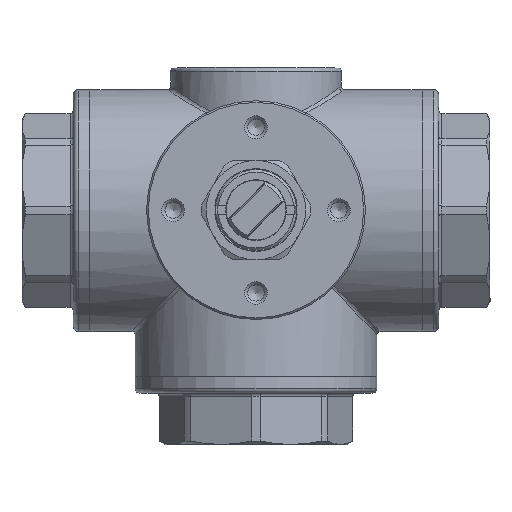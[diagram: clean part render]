
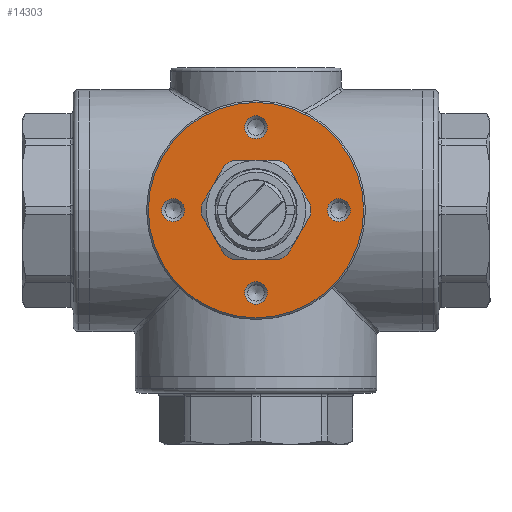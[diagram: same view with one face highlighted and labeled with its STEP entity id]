
A CAD part, top view. The second image highlights one B-rep face of the part: STEP entity #14303.
In plain terms, the highlighted planar face has unit normal (0, 0, 1) as drawn and (0, 1, 0) by its records, which use the part's own axes.
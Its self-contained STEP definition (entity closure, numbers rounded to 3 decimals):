
#14228=CARTESIAN_POINT('',(3.459,23.0,25.0));
#14229=VERTEX_POINT('',#14228);
#14230=CARTESIAN_POINT('',(0.0,23.0,25.0));
#14231=DIRECTION('',(0.0,1.0,0.0));
#14232=DIRECTION('',(-1.0,0.0,0.0));
#14233=AXIS2_PLACEMENT_3D('',#14230,#14231,#14232);
#14234=CIRCLE('',#14233,3.459);
#14235=EDGE_CURVE('',#14229,#14229,#14234,.T.);
#14240=CARTESIAN_POINT('',(0.0,23.0,23.151));
#14241=DIRECTION('',(0.0,-1.0,0.0));
#14242=DIRECTION('',(0.0,0.0,-1.0));
#14243=AXIS2_PLACEMENT_3D('',#14240,#14241,#14242);
#14244=PLANE('',#14243);
#14245=CARTESIAN_POINT('',(-32.5,23.0,0.));
#14246=VERTEX_POINT('',#14245);
#14247=CARTESIAN_POINT('',(0.0,23.0,0.0));
#14248=DIRECTION('',(0.0,-1.0,0.0));
#14249=DIRECTION('',(1.0,0.0,0.0));
#14250=AXIS2_PLACEMENT_3D('',#14247,#14248,#14249);
#14251=CIRCLE('',#14250,32.5);
#14252=EDGE_CURVE('',#14246,#14246,#14251,.T.);
#14253=ORIENTED_EDGE('',*,*,#14252,.F.);
#14254=EDGE_LOOP('',(#14253));
#14255=FACE_OUTER_BOUND('',#14254,.T.);
#14256=CARTESIAN_POINT('',(28.459,23.0,0.));
#14257=VERTEX_POINT('',#14256);
#14258=CARTESIAN_POINT('',(25.0,23.0,0.0));
#14259=DIRECTION('',(0.0,1.0,0.0));
#14260=DIRECTION('',(-1.0,0.0,0.0));
#14261=AXIS2_PLACEMENT_3D('',#14258,#14259,#14260);
#14262=CIRCLE('',#14261,3.459);
#14263=EDGE_CURVE('',#14257,#14257,#14262,.T.);
#14264=ORIENTED_EDGE('',*,*,#14263,.F.);
#14265=EDGE_LOOP('',(#14264));
#14266=FACE_BOUND('',#14265,.T.);
#14267=CARTESIAN_POINT('',(-21.541,23.0,0.));
#14268=VERTEX_POINT('',#14267);
#14269=CARTESIAN_POINT('',(-25.0,23.0,0.0));
#14270=DIRECTION('',(0.0,1.0,0.0));
#14271=DIRECTION('',(-1.0,0.0,0.0));
#14272=AXIS2_PLACEMENT_3D('',#14269,#14270,#14271);
#14273=CIRCLE('',#14272,3.459);
#14274=EDGE_CURVE('',#14268,#14268,#14273,.T.);
#14275=ORIENTED_EDGE('',*,*,#14274,.F.);
#14276=EDGE_LOOP('',(#14275));
#14277=FACE_BOUND('',#14276,.T.);
#14278=CARTESIAN_POINT('',(0.,23.0,13.0));
#14279=VERTEX_POINT('',#14278);
#14280=CARTESIAN_POINT('',(0.0,23.0,0.0));
#14281=DIRECTION('',(0.0,1.0,0.0));
#14282=DIRECTION('',(0.0,0.0,-1.0));
#14283=AXIS2_PLACEMENT_3D('',#14280,#14281,#14282);
#14284=CIRCLE('',#14283,13.0);
#14285=EDGE_CURVE('',#14279,#14279,#14284,.T.);
#14286=ORIENTED_EDGE('',*,*,#14285,.F.);
#14287=EDGE_LOOP('',(#14286));
#14288=FACE_BOUND('',#14287,.T.);
#14289=CARTESIAN_POINT('',(3.459,23.0,-25.0));
#14290=VERTEX_POINT('',#14289);
#14291=CARTESIAN_POINT('',(0.0,23.0,-25.0));
#14292=DIRECTION('',(0.0,1.0,0.0));
#14293=DIRECTION('',(-1.0,0.0,0.0));
#14294=AXIS2_PLACEMENT_3D('',#14291,#14292,#14293);
#14295=CIRCLE('',#14294,3.459);
#14296=EDGE_CURVE('',#14290,#14290,#14295,.T.);
#14297=ORIENTED_EDGE('',*,*,#14296,.F.);
#14298=EDGE_LOOP('',(#14297));
#14299=FACE_BOUND('',#14298,.T.);
#14300=ORIENTED_EDGE('',*,*,#14235,.F.);
#14301=EDGE_LOOP('',(#14300));
#14302=FACE_BOUND('',#14301,.T.);
#14303=ADVANCED_FACE('',(#14255,#14266,#14277,#14288,#14299,#14302),#14244,.F.);
